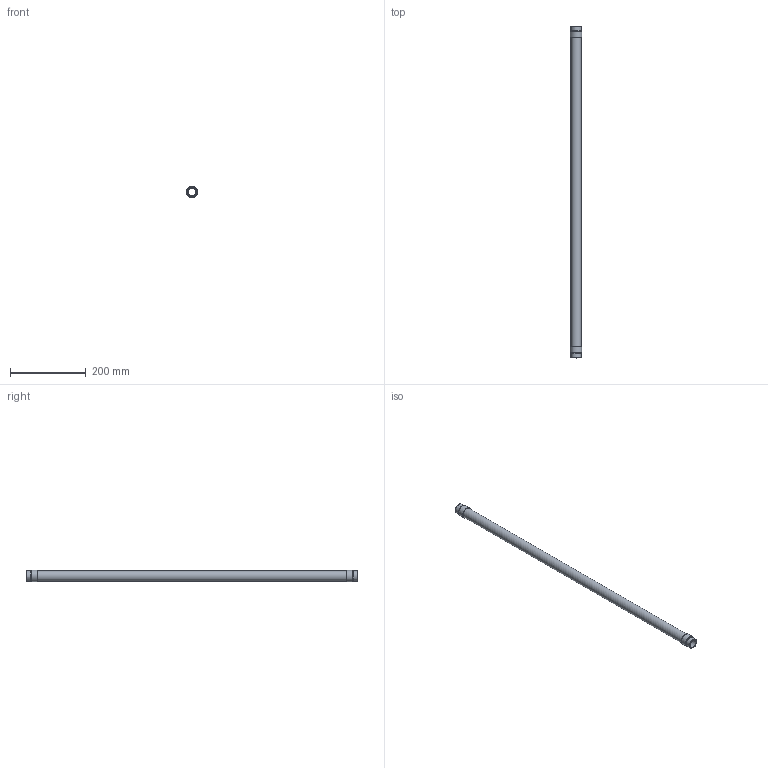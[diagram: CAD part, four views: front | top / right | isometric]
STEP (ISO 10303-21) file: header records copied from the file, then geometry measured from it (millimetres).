
FILE_DESCRIPTION(/* description */ (''),/* implementation_level */ '2;1');
FILE_NAME(/* name */ 'C:\001_Work\Designs\CSAWN\CSAWN-0.75x34.5.stp',/* time_stamp */ '2016-06-04T16:29:06-04:00',/* author */ ('rramoutar'),/* organization */ ('Mason Industries Inc.'),/* preprocessor_version */ 'ST-DEVELOPER v15.6',/* originating_system */ 'Autodesk Inventor 2015',/* authorisation */ '');
FILE_SCHEMA (('CONFIG_CONTROL_DESIGN'));
Length unit declared in the file: inch
Products named in the file (1): CSAWN-0.75x34.5
Bounding box: 29.92 x 876.3 x 29.92 mm (x, y, z)
Volume: 31523 mm3; surface area: 155308.4 mm2
Topology: 5 solids, 5 shells, 24 faces, 40 edges, 26 vertices
Faces by surface type: cylinder 10, plane 10, cone 4
Full cylindrical faces by diameter (mm): 20.93 x2, 26.67 x3, 27.28 x1, 27.534 x2, 29.921 x2
Entity records: 571 total; most frequent: DIRECTION 98, CARTESIAN_POINT 73, AXIS2_PLACEMENT_3D 49, EDGE_LOOP 48, ORIENTED_EDGE 48, STYLED_ITEM 29, FACE_BOUND 24, FACE_OUTER_BOUND 24
